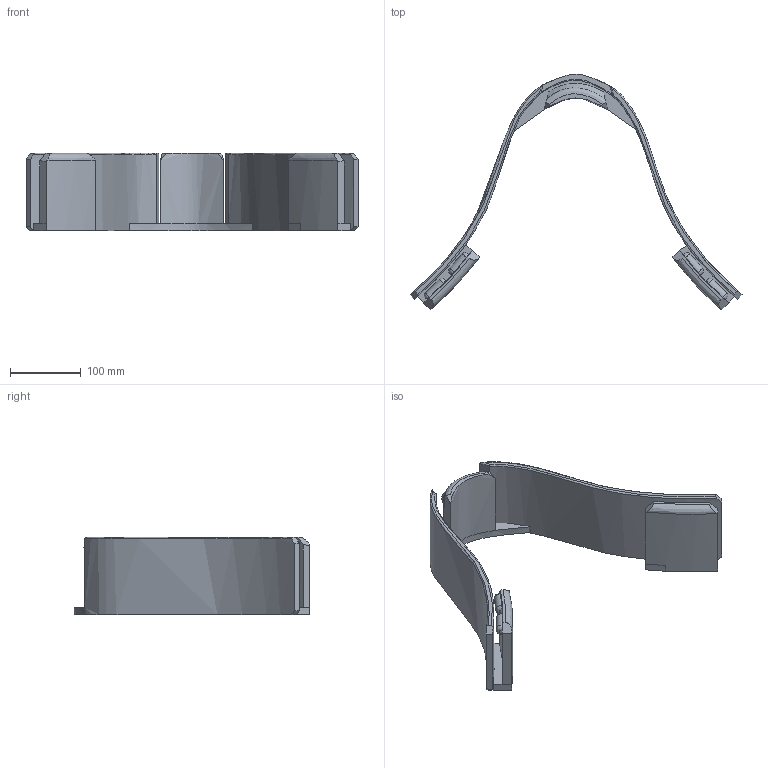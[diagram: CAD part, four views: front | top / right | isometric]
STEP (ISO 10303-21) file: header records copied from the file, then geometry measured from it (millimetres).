
FILE_DESCRIPTION ((), '1');
FILE_NAME ('C:\Users\hp\Documents\OLD\3D\Modely\Maska\Pozicer\KLIP\Pozicer Orig Mini 1.8.stp', '2020-04-04T15:23:39', ('Unknown'), ('Unknown'), 'HarmonyWare STEP v1.4.3', 'HarmonyWare Translators', '');
FILE_SCHEMA (('CONFIG_CONTROL_DESIGN'));
Length unit declared in the file: centimetre
Products named in the file (4): product-name
Bounding box: 470.38 x 334.23 x 110 mm (x, y, z)
Volume: 1172601.9 mm3; surface area: 271491.5 mm2
Topology: 3 solids, 3 shells, 115 faces, 323 edges, 205 vertices
Faces by surface type: bspline 115
Entity records: 10814 total; most frequent: CARTESIAN_POINT 8628, ORIENTED_EDGE 596, EDGE_CURVE 298, B_SPLINE_CURVE_WITH_KNOTS 242, VERTEX_POINT 191, EDGE_LOOP 119, FACE_OUTER_BOUND 115, ADVANCED_FACE 115
